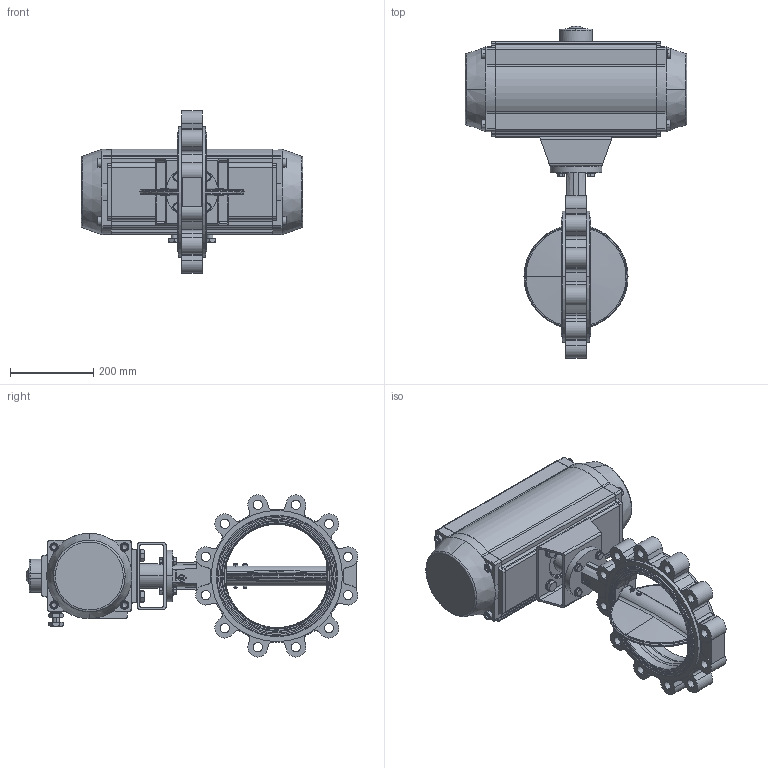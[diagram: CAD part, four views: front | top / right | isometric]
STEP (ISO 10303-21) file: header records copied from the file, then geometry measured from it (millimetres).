
FILE_DESCRIPTION (( 'STEP AP214' ), '1' );
FILE_NAME ('VPG464X-N07XX0250.step', '2022-06-07T06:28:29', ( '' ), ( '' ), 'SwSTEP 2.0', 'SolidWorks 2020', '' );
FILE_SCHEMA (( 'AUTOMOTIVE_DESIGN' ));
Length unit declared in the file: millimetre
Products named in the file (1): VPG464X-N07XX0250
Bounding box: 534 x 799.89 x 390.81 mm (x, y, z)
Surface area: 1177494.7 mm2 (no closed solid volume)
Topology: 0 solids, 97 shells, 866 faces, 4658 edges, 3887 vertices
Faces by surface type: plane 373, cylinder 297, cone 116, bspline 80
Entity records: 75487 total; most frequent: CARTESIAN_POINT 31957, ORIENTED_EDGE 6454, DIRECTION 5996, EDGE_CURVE 4658, VERTEX_POINT 3887, VECTOR 2330, LINE 2330, AXIS2_PLACEMENT_3D 1833
